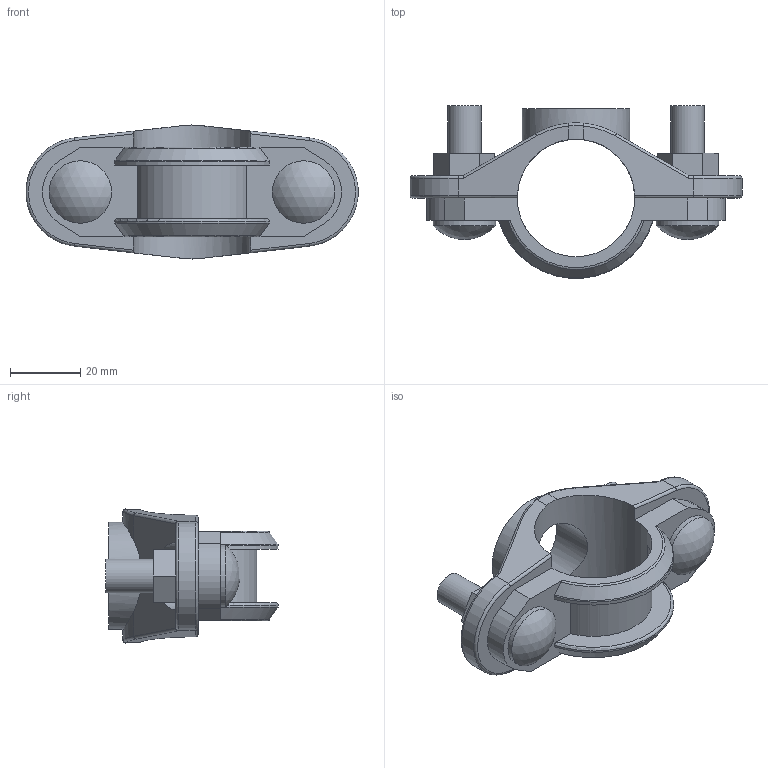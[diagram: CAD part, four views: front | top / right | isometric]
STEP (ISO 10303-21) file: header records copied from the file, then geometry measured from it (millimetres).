
FILE_DESCRIPTION(/* description */ ('Victaulic FireLock Low-Profile Sprinkler-Tee Style 912','CAx-IF Rec.Pracs.---Representation and Presentation of Product Manufacturing Information (PMI)---4.0---2014-10-13'),/* implementation_level */ '2;1');
FILE_NAME(/* name */ 'C:\Users\Vjadhav\AppData\Roaming\Autodesk\ApplicationPlugins\Back Up\Victaulic_FP-FireLock_Tee Low-Profile Sprinkler_Style 912 (OGSxFBSPP)\Victaulic_FP-FireLock_Tee Low-Profile Sprinkler_Style 912 (OGSxFBSPP)_01.0x0.50 (25x15).stp',/* time_stamp */ '2020-07-20T12:43:58+05:00',/* author */ ('kkamble'),/* organization */ ('Victaulic'),/* preprocessor_version */ 'ST-DEVELOPER v17.2',/* originating_system */ 'Autodesk Inventor 2019',/* authorisation */ '');
FILE_SCHEMA (('AP242_MANAGED_MODEL_BASED_3D_ENGINEERING_MIM_LF { 1 0 10303 442 1 1 4 }'));
Length unit declared in the file: inch
Products named in the file (1): 912-01.0x0.5
Bounding box: 94.37 x 48.99 x 38.1 mm (x, y, z)
Volume: 36408.8 mm3; surface area: 17428.4 mm2
Topology: 1 solids, 3 shells, 101 faces, 286 edges, 187 vertices
Faces by surface type: plane 45, cylinder 38, torus 8, bspline 6, cone 2, sphere 2
Full cylindrical faces by diameter (mm): 9.55 x4, 17.78 x2, 21.336 x1, 30.48 x1, 33.401 x1
Entity records: 3813 total; most frequent: CARTESIAN_POINT 904, DIRECTION 591, ORIENTED_EDGE 572, EDGE_CURVE 286, AXIS2_PLACEMENT_3D 222, VERTEX_POINT 187, LINE 147, VECTOR 147
